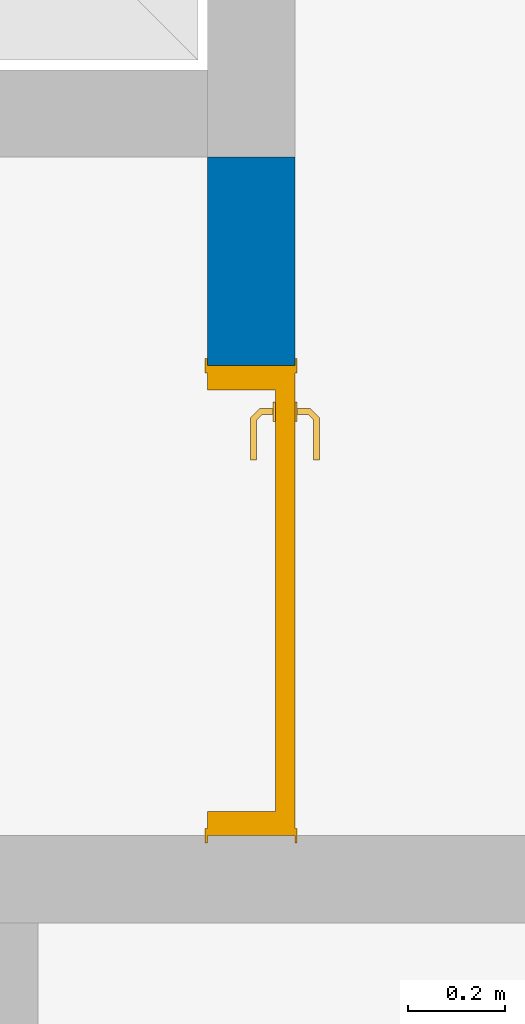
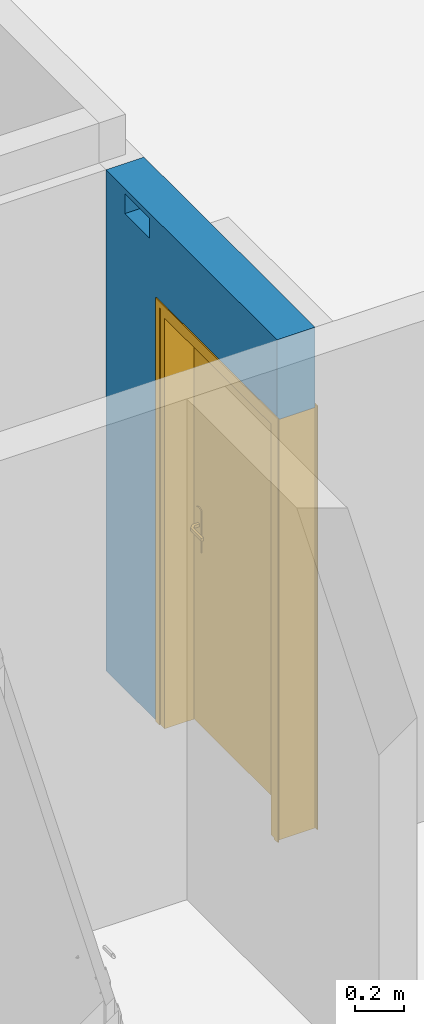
# One storey, part 17 of 30: 1 door, 1 wall, 2 openings.
"""IFC2X3 building model written with IfcOpenShell, lengths in centimetres."""

import ifcopenshell
import ifcopenshell.guid

model = None  # the IFC model being written
_history = None  # IfcOwnerHistory: only IFC2X3 demands one
_inside = {}  # id of a spatial element -> (the spatial element, [elements in it])
_under = {}  # id of a project, library or spatial element -> (it, [spatial elements below it])
_declared = {}  # id of a project -> (the project, [libraries it declares])
_typed = {}  # id of a type object -> (the type object, [elements of that type])
_made_of = {}  # id of a material, layer set ... -> (it, [elements and type objects made of it])


def new_model(schema):
    """Start an empty IFC model of exactly this schema.

    Asked for "IFC4X3", IfcOpenShell would pick the latest addendum, in which some entities
    have other attributes; the version numbers below select the first issue.
    IFC2X3 requires an IfcOwnerHistory on every rooted entity: one is made here for all.
    """
    global model, _history
    if schema == "IFC4X3":
        model = ifcopenshell.file(schema_version=(4, 3, 0, 0))
    else:
        model = ifcopenshell.file(schema=schema)
    _inside.clear()
    _under.clear()
    _declared.clear()
    _typed.clear()
    _made_of.clear()
    _history = None
    if model.schema == "IFC2X3":
        org = make("IfcOrganization", Name="unknown")
        user = make(
            "IfcPersonAndOrganization",
            ThePerson=make("IfcPerson", FamilyName="unknown"),
            TheOrganization=org,
        )
        app = make(
            "IfcApplication",
            ApplicationDeveloper=org,
            Version="unknown",
            ApplicationFullName="unknown",
            ApplicationIdentifier="unknown",
        )
        _history = make(
            "IfcOwnerHistory",
            OwningUser=user,
            OwningApplication=app,
            ChangeAction="ADDED",
            CreationDate=0,
        )
    return model


def make(cls, **values):
    """One entity of the class cls with the attributes given. An attribute that is None is left unset."""
    return model.create_entity(
        cls, **{name: value for name, value in values.items() if value is not None}
    )


def entity(cls, *values):
    """Any entity or typed value of the class cls, its attributes in the order of the schema. None: left unset."""
    e = model.create_entity(cls)
    for i, value in enumerate(values):
        if value is not None:
            e[i] = value
    return e


def rooted(cls, **values):
    """An entity with a GlobalId (a new one), such as an element, a storey or a relation."""
    return make(cls, GlobalId=ifcopenshell.guid.new(), OwnerHistory=_history, **values)


def si_unit(unit_type, name, prefix=None):
    """IfcSIUnit, for example si_unit("LENGTHUNIT", "METRE", prefix="MILLI")."""
    return make("IfcSIUnit", UnitType=unit_type, Prefix=prefix, Name=name)


def converted_unit(unit_type, name, factor, base, dimensions=None, offset=None):
    """IfcConversionBasedUnit, such as the inch: factor (a typed value) times the base unit."""
    return make(
        "IfcConversionBasedUnit"
        if offset is None
        else "IfcConversionBasedUnitWithOffset",
        ConversionOffset=offset,
        Dimensions=None
        if dimensions is None
        else entity("IfcDimensionalExponents", *dimensions),
        UnitType=unit_type,
        Name=name,
        ConversionFactor=make(
            "IfcMeasureWithUnit", ValueComponent=factor, UnitComponent=base
        ),
    )


def derived_unit(unit_type, elements):
    """IfcDerivedUnit: a product of units, each with its exponent."""
    return make(
        "IfcDerivedUnit",
        Elements=[
            make("IfcDerivedUnitElement", Unit=unit, Exponent=power)
            for unit, power in elements
        ],
        UnitType=unit_type,
    )


def assignment(units):
    """IfcUnitAssignment: the units of a project."""
    return None if units is None else make("IfcUnitAssignment", Units=units)


def point(xyz):
    """IfcCartesianPoint."""
    return None if xyz is None else make("IfcCartesianPoint", Coordinates=xyz)


def direction(xyz):
    """IfcDirection."""
    return None if xyz is None else make("IfcDirection", DirectionRatios=xyz)


def frame(location, z_axis=None, x_axis=None):
    """IfcAxis2Placement3D, a coordinate frame: its origin and axes. An axis left out is left unset."""
    return make(
        "IfcAxis2Placement3D",
        Location=point(location),
        Axis=direction(z_axis),
        RefDirection=direction(x_axis),
    )


def frame_2d(location, x_axis=None):
    """IfcAxis2Placement2D, a coordinate frame in the plane: its origin and x axis."""
    return make(
        "IfcAxis2Placement2D", Location=point(location), RefDirection=direction(x_axis)
    )


def origin():
    """The frame at (0, 0, 0) with its axes left unset."""
    return frame((0.0, 0.0, 0.0))


def place(relative_to, where):
    """IfcLocalPlacement: puts the frame where relative to a parent placement (None: the world)."""
    return make(
        "IfcLocalPlacement", PlacementRelTo=relative_to, RelativePlacement=where
    )


def context(
    kind, dimensions, precision=None, world=None, true_north=None, identifier=None
):
    """IfcGeometricRepresentationContext, for example the 3D "Model" context."""
    return make(
        "IfcGeometricRepresentationContext",
        ContextIdentifier=identifier,
        ContextType=kind,
        CoordinateSpaceDimension=dimensions,
        Precision=precision,
        WorldCoordinateSystem=world,
        TrueNorth=true_north,
    )


def subcontext(parent, identifier, kind, view, scale=None):
    """IfcGeometricRepresentationSubContext, for example "Body" below "Model"."""
    return make(
        "IfcGeometricRepresentationSubContext",
        ContextIdentifier=identifier,
        ContextType=kind,
        ParentContext=parent,
        TargetScale=scale,
        TargetView=view,
    )


def project(units=None, contexts=None):
    """IfcProject with its units and contexts."""
    return rooted(
        "IfcProject",
        Name="project",
        RepresentationContexts=contexts,
        UnitsInContext=assignment(units),
    )


def spatial(cls, under=None, at=None, **own):
    """A site, building, storey or space (cls), placed at a placement, below another one or the project."""
    s = rooted(cls, ObjectPlacement=at, **own)
    if under is not None:
        _under.setdefault(under.id(), (under, []))[1].append(s)
    return s


def profile(cls, at=None, kind="AREA", **sizes):
    """A parametric profile (cls). Its sizes go by their IFC names, for example OverallWidth=200.0."""
    return make(cls, ProfileType=kind, Position=at, **sizes)


def rectangle(**sizes):
    """IfcRectangleProfileDef."""
    return profile("IfcRectangleProfileDef", **sizes)


def extrude(swept, where, along, depth):
    """IfcExtrudedAreaSolid: the profile swept, set in the frame where, extruded along a direction by depth."""
    return make(
        "IfcExtrudedAreaSolid",
        SweptArea=swept,
        Position=where,
        ExtrudedDirection=direction(along),
        Depth=depth,
    )


def faces_of(points, faces, orient=None, outer=None):
    """IfcFace entities. A face is a list of loops; a loop is a list of indices into points, from 0.

    orient and outer hold one flag for each loop. By default every Orientation is true, the
    first loop of a face is its IfcFaceOuterBound and the others are IfcFaceBound.
    """
    made = []
    for i, loops in enumerate(faces):
        bounds = []
        for j, loop in enumerate(loops):
            is_outer = j == 0 if outer is None else outer[i][j]
            bounds.append(
                make(
                    "IfcFaceOuterBound" if is_outer else "IfcFaceBound",
                    Bound=make("IfcPolyLoop", Polygon=[points[k] for k in loop]),
                    Orientation=True if orient is None else orient[i][j],
                )
            )
        made.append(make("IfcFace", Bounds=bounds))
    return made


def faceted_brep(points, faces, orient=None, outer=None, voids=None):
    """IfcFacetedBrep: a solid bounded by flat faces; with voids (closed shells), ...WithVoids."""
    shared = [point(p) for p in points]
    hull = make("IfcClosedShell", CfsFaces=faces_of(shared, faces, orient, outer))
    if voids is None:
        return make("IfcFacetedBrep", Outer=hull)
    return make(
        "IfcFacetedBrepWithVoids",
        Outer=hull,
        Voids=[
            make(cls, CfsFaces=faces_of(shared, fs, o, b)) for cls, fs, o, b in voids
        ],
    )


def shape(context_of_items, identifier, shape_type, items):
    """IfcShapeRepresentation: the items that make up one representation, for example the "Body"."""
    return make(
        "IfcShapeRepresentation",
        ContextOfItems=context_of_items,
        RepresentationIdentifier=identifier,
        RepresentationType=shape_type,
        Items=items,
    )


def source(mapping_origin, context_of_items, identifier, shape_type, items):
    """IfcRepresentationMap: a shape defined once, which mapped items show again and again."""
    return make(
        "IfcRepresentationMap",
        MappingOrigin=mapping_origin,
        MappedRepresentation=shape(context_of_items, identifier, shape_type, items),
    )


def transform(
    local_origin,
    x_axis=None,
    y_axis=None,
    z_axis=None,
    scale=None,
    scale2=None,
    scale3=None,
    uniform=True,
):
    """IfcCartesianTransformationOperator3D, or its non-uniform kind. x_axis, y_axis, z_axis: its Axis1, 2, 3."""
    if uniform:
        return make(
            "IfcCartesianTransformationOperator3D",
            Axis1=direction(x_axis),
            Axis2=direction(y_axis),
            LocalOrigin=point(local_origin),
            Scale=scale,
            Axis3=direction(z_axis),
        )
    return make(
        "IfcCartesianTransformationOperator3DnonUniform",
        Axis1=direction(x_axis),
        Axis2=direction(y_axis),
        LocalOrigin=point(local_origin),
        Scale=scale,
        Axis3=direction(z_axis),
        Scale2=scale2,
        Scale3=scale3,
    )


def mapped(mapping_source, mapping_target):
    """IfcMappedItem: shows the shape of a source again, moved by a transform."""
    return make(
        "IfcMappedItem", MappingSource=mapping_source, MappingTarget=mapping_target
    )


def material(Name=None, Category=None):
    """IfcMaterial."""
    return make("IfcMaterial", Name=Name, Category=Category)


def material_list(materials):
    """IfcMaterialList."""
    return make("IfcMaterialList", Materials=materials)


def layer(
    of_material, thickness, ventilated=None, Name=None, Category=None, Priority=None
):
    """IfcMaterialLayer: one layer of a wall or slab, of a material (None: an air gap)."""
    return make(
        "IfcMaterialLayer",
        Material=of_material,
        LayerThickness=thickness,
        IsVentilated=ventilated,
        Name=Name,
        Category=Category,
        Priority=Priority,
    )


def layer_set(layers, Name=None):
    """IfcMaterialLayerSet."""
    return make("IfcMaterialLayerSet", MaterialLayers=layers, LayerSetName=Name)


def layer_usage(for_layer_set, set_direction, sense, offset, extent=None):
    """IfcMaterialLayerSetUsage: how a layer set lies in its element."""
    return make(
        "IfcMaterialLayerSetUsage",
        ForLayerSet=for_layer_set,
        LayerSetDirection=set_direction,
        DirectionSense=sense,
        OffsetFromReferenceLine=offset,
        ReferenceExtent=extent,
    )


def made_of(thing, what):
    """Note that an element or type object is made of a material, layer set ...; save() writes the relation."""
    if what is not None:
        _made_of.setdefault(what.id(), (what, []))[1].append(thing)
    return thing


def type_object(cls, material=None, **own):
    """A type object (cls), such as IfcWallType, which elements share."""
    return made_of(rooted(cls, **own), material)


def type_shapes(of_type, sources):
    """Give a type object the sources (RepresentationMaps) that its elements show as mapped items."""
    of_type.RepresentationMaps = sources


def element(
    cls,
    number,
    at=None,
    inside=None,
    cuts=None,
    type_object=None,
    material=None,
    context=None,
    identifier="Body",
    shape_type=None,
    held_by="IfcProductDefinitionShape",
    body=None,
    shapes=None,
    **own,
):
    """One element of the class cls, such as IfcWall. Its Tag is "e" and its number.

    at: its placement. inside: the storey or other place that contains it. cuts: it is an
    opening in that element (IfcRelVoidsElement). A single representation is given by context,
    identifier, shape_type and body (its items); several are given by shapes. held_by: the class
    of the entity that holds the representations. save() writes the other relations.
    """
    e = rooted(cls, Tag="e%d" % number, ObjectPlacement=at, **own)
    if body is not None:
        shapes = [shape(context, identifier, shape_type, body)]
    if shapes is not None:
        e.Representation = make(held_by, Representations=shapes)
    if inside is not None:
        _inside.setdefault(inside.id(), (inside, []))[1].append(e)
    if cuts is not None:
        rooted(
            "IfcRelVoidsElement", RelatingBuildingElement=cuts, RelatedOpeningElement=e
        )
    if type_object is not None:
        _typed.setdefault(type_object.id(), (type_object, []))[1].append(e)
    return made_of(e, material)


def fill(opening, filler):
    """IfcRelFillsElement: the door or window that sits in an opening."""
    return rooted(
        "IfcRelFillsElement",
        RelatingOpeningElement=opening,
        RelatedBuildingElement=filler,
    )


def aggregate(whole, parts):
    """IfcRelAggregates: a whole, such as a stair, and the parts it consists of."""
    return rooted("IfcRelAggregates", RelatingObject=whole, RelatedObjects=parts)


def save(model, path):
    """Write the relations noted so far, then the file.

    IfcRelAggregates (storeys below a building ...), IfcRelContainedInSpatialStructure (elements
    in a storey), IfcRelDefinesByType, IfcRelAssociatesMaterial and IfcRelDeclares: one each for
    every whole, place, type object, material and project.
    """
    for whole, parts in _under.values():
        aggregate(whole, parts)
    for where, things in _inside.values():
        rooted(
            "IfcRelContainedInSpatialStructure",
            RelatedElements=things,
            RelatingStructure=where,
        )
    for kind, things in _typed.values():
        rooted("IfcRelDefinesByType", RelatedObjects=things, RelatingType=kind)
    for what, things in _made_of.values():
        rooted("IfcRelAssociatesMaterial", RelatedObjects=things, RelatingMaterial=what)
    for by, libraries in _declared.values():
        rooted("IfcRelDeclares", RelatingContext=by, RelatedDefinitions=libraries)
    model.write(path)


model = new_model("IFC2X3")

# Units and contexts
model_context = context("Model", 3, precision=0.001, world=origin(), true_north=direction((6.12303176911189e-17, 1.0)))
body_context = subcontext(model_context, "Body", "Model", "MODEL_VIEW")
ifc_project = project(units=[si_unit("LENGTHUNIT", "METRE", prefix="CENTI"), si_unit("AREAUNIT", "SQUARE_METRE"), si_unit("VOLUMEUNIT", "CUBIC_METRE"), converted_unit("PLANEANGLEUNIT", "DEGREE", entity("IfcRatioMeasure", 0.0174532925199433), si_unit("PLANEANGLEUNIT", "RADIAN"), dimensions=[0, 0, 0, 0, 0, 0, 0]), si_unit("MASSUNIT", "GRAM", prefix="KILO"), derived_unit("MASSDENSITYUNIT", [(si_unit("MASSUNIT", "GRAM", prefix="KILO"), 1), (si_unit("LENGTHUNIT", "METRE"), -3)]), si_unit("TIMEUNIT", "SECOND"), si_unit("FREQUENCYUNIT", "HERTZ"), si_unit("THERMODYNAMICTEMPERATUREUNIT", "DEGREE_CELSIUS"), derived_unit("THERMALTRANSMITTANCEUNIT", [(si_unit("MASSUNIT", "GRAM", prefix="KILO"), 1), (si_unit("THERMODYNAMICTEMPERATUREUNIT", "KELVIN"), -1), (si_unit("TIMEUNIT", "SECOND"), -3)]), derived_unit("VOLUMETRICFLOWRATEUNIT", [(si_unit("LENGTHUNIT", "METRE"), 3), (si_unit("TIMEUNIT", "SECOND"), -1)]), si_unit("ELECTRICCURRENTUNIT", "AMPERE"), si_unit("ELECTRICVOLTAGEUNIT", "VOLT"), si_unit("POWERUNIT", "WATT"), si_unit("FORCEUNIT", "NEWTON"), si_unit("ILLUMINANCEUNIT", "LUX"), si_unit("LUMINOUSFLUXUNIT", "LUMEN"), si_unit("LUMINOUSINTENSITYUNIT", "CANDELA"), derived_unit("USERDEFINED", [(si_unit("MASSUNIT", "GRAM", prefix="KILO"), -1), (si_unit("LENGTHUNIT", "METRE"), -2), (si_unit("TIMEUNIT", "SECOND"), 3), (si_unit("LUMINOUSFLUXUNIT", "LUMEN"), 1)]), derived_unit("LINEARVELOCITYUNIT", [(si_unit("LENGTHUNIT", "METRE"), 1), (si_unit("TIMEUNIT", "SECOND"), -1)]), si_unit("PRESSUREUNIT", "PASCAL"), derived_unit("USERDEFINED", [(si_unit("LENGTHUNIT", "METRE"), -2), (si_unit("MASSUNIT", "GRAM", prefix="KILO"), 1), (si_unit("TIMEUNIT", "SECOND"), -2)])], contexts=[model_context])

# Site, building, storey
site_placement = place(None, origin())
site = spatial("IfcSite", under=ifc_project, at=site_placement, Name="Default", CompositionType="ELEMENT")
building_placement = place(site_placement, origin())
building = spatial("IfcBuilding", under=site, at=building_placement, Name="CAGE 03", CompositionType="ELEMENT")
storey_placement = place(building_placement, frame((0.0, 0.0, 610.0)))
storey = spatial("IfcBuildingStorey", under=building, at=storey_placement, Name="R+2", CompositionType="ELEMENT", Elevation=610.0)

# Wall, openings, door
ifc_material_1 = material(Name="Béton, C25/30")
ifc_layer = layer(ifc_material_1, 18.0)
ifc_layer_set = layer_set([ifc_layer], Name="Mur de base:Voile BA 18")
ifc_layer_usage = layer_usage(ifc_layer_set, "AXIS2", "POSITIVE", -9.0)
wall_type = type_object("IfcWallType", Name="Mur de base:Voile BA 18", PredefinedType="STANDARD", material=ifc_layer_set)
wall_placement = place(storey_placement, frame((10499.3658201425, 4632.66066607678, 0.0), z_axis=(0.0, 0.0, 1.0), x_axis=(0.0, -1.0, 0.0)))
wall = element("IfcWallStandardCase", 1, at=wall_placement, inside=storey, type_object=wall_type, material=ifc_layer_usage, Name="Mur de base:Voile BA 18", ObjectType="Mur de base:Voile BA 18", context=body_context, shape_type="SweptSolid", body=[
    extrude(rectangle(XDim=139.999999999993, YDim=17.9999999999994, at=frame_2d((69.9999999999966, 2.39808173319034e-13), x_axis=(-1.0, 0.0))), origin(), (0.0, 0.0, 1.0), 250.0),
])
opening_1_placement = place(wall_placement, origin())
element("IfcOpeningElement", 2, at=opening_1_placement, cuts=wall, Name="Mur de base:Voile BA 18", ObjectType="Opening", context=body_context, shape_type="SweptSolid", body=[
    extrude(rectangle(XDim=10.0, YDim=19.9999999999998, at=frame_2d((-4.33431068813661e-13, -5.41788836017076e-14), x_axis=(0.0, 1.0))), frame((25.4999999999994, -9.0, 242.5), z_axis=(0.0, 1.0, 0.0), x_axis=(1.0, 0.0, 0.0)), (0.0, 0.0, 1.0), 17.9999999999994),
])
opening_2_placement = place(wall_placement, frame((43.0, -9.0, 0.0)))
opening_2 = element("IfcOpeningElement", 3, at=opening_2_placement, cuts=wall, Name="Int. Simple:HB93:1", ObjectType="Opening", context=body_context, shape_type="SweptSolid", body=[
    extrude(rectangle(XDim=210.000000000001, YDim=96.9999999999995, at=frame_2d((105.000000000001, 48.4999999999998), x_axis=(1.0, 0.0))), frame((0.0, 0.0, 0.0), z_axis=(0.0, 1.0, 0.0), x_axis=(0.0, 0.0, 1.0)), (0.0, 0.0, 1.0), 18.0),
])
ifc_material_2 = material(Name="Finition Peinture - Blanc satiné")
ifc_material_3 = material(Name="Bois - Panneau de porte")
ifc_material_4 = material(Name="Bois - Cadre de porte")
ifc_material_list_1 = material_list([ifc_material_2, ifc_material_3, ifc_material_4])
ifc_material_list_2 = material_list([ifc_material_2, ifc_material_3, ifc_material_4])
door_style = type_object("IfcDoorStyle", Name="HB93", ConstructionType="NOTDEFINED", OperationType="SINGLE_SWING_RIGHT", ParameterTakesPrecedence=False, Sizeable=False, material=ifc_material_list_2)
shared_shape = source(origin(), body_context, "Body", "Brep", [
    faceted_brep([(96.5000000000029, -0.500000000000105, 87.0), (96.5000000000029, -0.500000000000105, 108.0), (95.535276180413, -0.500000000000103, 108.399601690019), (94.5000000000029, -0.500000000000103, 108.535898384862), (93.4647238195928, -0.500000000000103, 108.399601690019), (92.5000000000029, -0.500000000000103, 108.0), (92.5000000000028, -0.500000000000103, 87.0), (93.4647238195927, -0.500000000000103, 86.6003983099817), (94.5000000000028, -0.500000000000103, 86.464101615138), (95.5352761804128, -0.500000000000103, 86.6003983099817), (96.5000000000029, 0.0, 108.0), (96.5000000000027, 0.0, 87.0), (95.5352761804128, 0.0, 86.6003983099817), (94.5000000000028, 0.0, 86.464101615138), (93.4647238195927, 0.0, 86.6003983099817), (92.5000000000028, 0.0, 87.0), (92.5000000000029, 0.0, 108.0), (93.4647238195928, 0.0, 108.399601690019), (94.5000000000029, 0.0, 108.535898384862), (95.535276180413, 0.0, 108.399601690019)], [[[0, 1, 2, 3, 4, 5, 6, 7, 8, 9]], [[10, 11, 12, 13, 14, 15, 16, 17, 18, 19]], [[9, 12, 11, 0]], [[8, 13, 12, 9]], [[7, 14, 13, 8]], [[7, 6, 15, 14]], [[15, 6, 5, 16]], [[4, 17, 16, 5]], [[3, 18, 17, 4]], [[2, 19, 18, 3]], [[2, 1, 10, 19]], [[11, 10, 1, 0]]]),
    faceted_brep([(96.5000000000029, 4.0, 87.0), (96.5000000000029, 4.0, 108.0), (95.535276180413, 4.0, 108.399601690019), (94.5000000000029, 4.0, 108.535898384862), (93.4647238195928, 4.0, 108.399601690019), (92.500000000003, 4.0, 108.0), (92.5000000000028, 4.0, 87.0), (93.4647238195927, 4.0, 86.6003983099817), (94.5000000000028, 4.0, 86.464101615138), (95.5352761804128, 4.0, 86.6003983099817), (94.5000000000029, 4.49999999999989, 108.535898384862), (95.535276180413, 4.49999999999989, 108.399601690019), (96.5000000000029, 4.49999999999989, 108.0), (96.5000000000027, 4.49999999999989, 87.0), (95.5352761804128, 4.49999999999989, 86.6003983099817), (94.5000000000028, 4.49999999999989, 86.464101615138), (93.4647238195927, 4.49999999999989, 86.6003983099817), (92.5000000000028, 4.4999999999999, 87.0), (92.5000000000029, 4.4999999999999, 108.0), (93.4647238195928, 4.49999999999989, 108.399601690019)], [[[0, 1, 2, 3, 4, 5, 6, 7, 8, 9]], [[10, 11, 12, 13, 14, 15, 16, 17, 18, 19]], [[4, 19, 18, 5]], [[3, 10, 19, 4]], [[2, 11, 10, 3]], [[2, 1, 12, 11]], [[13, 12, 1, 0]], [[9, 14, 13, 0]], [[8, 15, 14, 9]], [[7, 16, 15, 8]], [[7, 6, 17, 16]], [[17, 6, 5, 18]]]),
    faceted_brep([(94.2974701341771, -0.500000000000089, 100.778044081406), (94.7025298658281, -0.500000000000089, 100.778044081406), (95.100000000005, -0.500000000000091, 100.699999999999), (95.100000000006, -0.500000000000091, 99.2999999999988), (94.7025298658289, -0.500000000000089, 99.221955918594), (94.297470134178, -0.500000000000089, 99.2219559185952), (93.9000000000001, -0.500000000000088, 99.3000000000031), (93.9000000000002, -0.500000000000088, 100.7), (94.7025298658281, -3.10045754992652, 100.778044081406), (95.1000000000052, -3.26509507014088, 100.7), (94.2974701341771, -2.93267631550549, 100.778044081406), (92.9298602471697, -4.30028620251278, 100.778044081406), (93.0976414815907, -4.70534593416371, 100.778044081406), (93.9000000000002, -2.76803879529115, 100.7), (93.9000000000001, -2.76803879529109, 99.3000000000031), (94.297470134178, -2.93267631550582, 99.2219559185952), (94.7025298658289, -3.10045754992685, 99.221955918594), (93.0976414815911, -4.70534593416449, 99.221955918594), (92.9298602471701, -4.30028620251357, 99.2219559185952), (95.100000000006, -3.26509507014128, 99.2999999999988), (93.2622790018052, -5.1028160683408, 100.7), (92.7652227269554, -3.90281606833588, 100.7), (92.7652227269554, -3.90281606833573, 99.3000000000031), (93.2622790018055, -5.10281606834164, 99.2999999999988), (84.4981359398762, -5.10281606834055, 100.7), (84.4981359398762, -4.70534593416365, 100.778044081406), (84.4981359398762, -4.30028620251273, 100.778044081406), (84.4981359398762, -3.90281606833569, 100.699999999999), (84.4981359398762, -3.90281606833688, 99.3000000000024), (84.4981359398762, -4.30028620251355, 99.2219559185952), (84.4981359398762, -4.70534593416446, 99.221955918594), (84.4981359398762, -5.10281606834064, 99.2999999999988), (88.7139980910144, -4.5028160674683, 100.78786867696), (89.2692302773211, -5.1028160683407, 100.7), (88.6316793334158, -3.90281606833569, 100.7), (88.631679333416, -3.90281606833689, 99.3000000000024), (88.7139981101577, -4.50281607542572, 99.2121313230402), (89.2692310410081, -5.10281606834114, 99.2999999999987)], [[[0, 1, 2, 3, 4, 5, 6, 7]], [[2, 1, 8, 9]], [[1, 0, 10, 11, 12, 8]], [[0, 7, 13, 10]], [[14, 13, 7, 6]], [[5, 15, 14, 6]], [[5, 4, 16, 17, 18, 15]], [[3, 19, 16, 4]], [[9, 19, 3, 2]], [[9, 8, 12, 20]], [[10, 13, 21, 11]], [[22, 21, 13, 14]], [[14, 15, 18, 22]], [[16, 19, 23, 17]], [[20, 23, 19, 9]], [[24, 25, 26, 27, 28, 29, 30, 31]], [[32, 25, 33]], [[33, 25, 24]], [[33, 20, 12]], [[11, 34, 32]], [[34, 11, 21]], [[27, 26, 34]], [[32, 26, 25]], [[32, 34, 26]], [[32, 33, 12]], [[11, 32, 12]], [[21, 22, 35, 28, 27, 34]], [[36, 29, 35]], [[30, 36, 37]], [[18, 35, 22]], [[29, 28, 35]], [[30, 37, 31]], [[37, 17, 23]], [[36, 17, 37]], [[36, 18, 17]], [[36, 35, 18]], [[29, 36, 30]], [[23, 20, 33, 24, 31, 37]]]),
    faceted_brep([(94.2974701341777, 4.49999999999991, 99.2219559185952), (94.7025298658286, 4.49999999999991, 99.221955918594), (95.1000000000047, 4.49999999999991, 99.2999999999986), (95.1000000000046, 4.49999999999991, 100.7), (94.7025298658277, 4.49999999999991, 100.778044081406), (94.2974701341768, 4.49999999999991, 100.778044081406), (93.8999999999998, 4.49999999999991, 100.7), (93.900000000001, 4.49999999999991, 99.3000000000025), (93.8999999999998, 6.7485204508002, 100.7), (93.8999999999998, 6.74852045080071, 99.3000000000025), (94.2974701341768, 6.91315797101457, 100.778044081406), (94.7025298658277, 7.0809392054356, 100.778044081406), (93.0838906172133, 8.69957845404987, 100.778044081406), (92.9161093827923, 8.29451872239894, 100.778044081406), (95.1000000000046, 7.24557672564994, 100.7), (95.1000000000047, 7.24557672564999, 99.2999999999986), (94.7025298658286, 7.08093920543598, 99.221955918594), (94.2974701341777, 6.91315797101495, 99.2219559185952), (92.9161093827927, 8.29451872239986, 99.2219559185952), (93.0838906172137, 8.69957845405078, 99.221955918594), (92.751471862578, 7.89704858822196, 100.7), (92.7514718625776, 7.89704858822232, 99.3000000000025), (93.2485281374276, 9.09704858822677, 100.7), (93.2485281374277, 9.09704858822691, 99.2999999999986), (84.4954216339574, 8.29451872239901, 100.778044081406), (84.4954216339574, 8.69957845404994, 100.778044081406), (84.4954216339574, 9.09704858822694, 100.7), (84.4954216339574, 9.09704858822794, 99.2999999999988), (84.4954216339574, 8.6995784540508, 99.221955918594), (84.4954216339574, 8.29451872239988, 99.2219559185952), (84.4954216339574, 7.89704858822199, 99.3000000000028), (84.4954216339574, 7.89704858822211, 100.7), (88.6234467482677, 7.89704858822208, 100.7), (88.6234479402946, 7.89704858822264, 99.3000000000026), (88.7057655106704, 8.49704858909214, 100.78786867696), (89.255479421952, 9.09704858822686, 100.7), (89.2554795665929, 9.09704858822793, 99.2999999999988), (88.7057654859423, 8.49704858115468, 99.2121313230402)], [[[0, 1, 2, 3, 4, 5, 6, 7]], [[8, 9, 7, 6]], [[5, 10, 8, 6]], [[5, 4, 11, 12, 13, 10]], [[3, 14, 11, 4]], [[14, 3, 2, 15]], [[2, 1, 16, 15]], [[1, 0, 17, 18, 19, 16]], [[0, 7, 9, 17]], [[20, 21, 9, 8]], [[8, 10, 13, 20]], [[14, 22, 12, 11]], [[23, 22, 14, 15]], [[15, 16, 19, 23]], [[17, 9, 21, 18]], [[24, 25, 26, 27, 28, 29, 30, 31]], [[21, 20, 32, 31, 30, 33]], [[34, 24, 32]], [[25, 34, 35]], [[13, 32, 20]], [[24, 31, 32]], [[25, 35, 26]], [[35, 12, 22]], [[34, 12, 35]], [[34, 13, 12]], [[34, 32, 13]], [[24, 34, 25]], [[22, 23, 36, 27, 26, 35]], [[37, 28, 36]], [[36, 28, 27]], [[36, 23, 19]], [[18, 33, 37]], [[33, 18, 21]], [[30, 29, 33]], [[37, 29, 28]], [[37, 33, 29]], [[37, 36, 19]], [[18, 37, 19]]]),
    faceted_brep([(100.500000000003, 4.0, 206.5), (100.500000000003, 4.0, 0.0), (10.5000000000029, 4.0, 0.0), (10.5000000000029, 4.0, 206.5), (100.500000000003, 0.0, 206.5), (10.5000000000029, 0.0, 206.5), (10.5000000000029, 0.0, 0.0), (100.500000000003, 0.0, 0.0)], [[[0, 1, 2, 3]], [[4, 5, 6, 7]], [[3, 5, 4, 0]], [[2, 6, 5, 3]], [[1, 7, 6, 2]], [[0, 4, 7, 1]]]),
    faceted_brep([(104.0, 0.0, 0.0), (100.500000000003, 0.0, 0.0), (100.500000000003, 4.0, 0.0), (99.0, 4.0, 0.0), (99.0, 18.0, 0.0), (104.0, 18.0, 0.0), (104.0, 18.0, 210.0), (104.0, 0.0, 210.0), (99.0, 18.0, 205.0), (12.0, 18.0, 205.0), (12.0, 18.0, 0.0), (7.0, 18.0, 0.0), (7.0, 18.0, 210.0), (99.0, 4.0, 205.0), (100.500000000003, 4.0, 206.5), (10.5000000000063, 4.0, 206.5), (10.5000000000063, 4.0, 0.0), (12.0, 4.0, 0.0), (12.0, 4.0, 205.0), (100.500000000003, 0.0, 206.5), (7.0, 0.0, 210.0), (7.0, 0.0, 0.0), (10.5000000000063, 0.0, 0.0), (10.5000000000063, 0.0, 206.5)], [[[0, 1, 2, 3, 4, 5]], [[5, 6, 7, 0]], [[4, 8, 9, 10, 11, 12, 6, 5]], [[3, 13, 8, 4]], [[2, 14, 15, 16, 17, 18, 13, 3]], [[1, 19, 14, 2]], [[0, 7, 20, 21, 22, 23, 19, 1]], [[12, 11, 21, 20]], [[21, 11, 10, 17, 16, 22]], [[18, 17, 10, 9]], [[23, 22, 16, 15]], [[6, 12, 20, 7]], [[13, 18, 9, 8]], [[19, 23, 15, 14]]]),
    faceted_brep([(102.500000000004, 18.0, 0.0), (102.500000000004, 18.5000000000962, 0.0), (105.500000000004, 18.5000000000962, 0.0), (105.500000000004, 18.0, 0.0), (105.500000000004, 18.0, 211.500000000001), (5.50000000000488, 18.0, 211.500000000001), (5.50000000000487, 18.0, 0.0), (8.50000000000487, 18.0, 0.0), (8.50000000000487, 18.0, 208.500000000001), (102.500000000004, 18.0, 208.500000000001), (105.500000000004, 18.5000000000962, 211.500000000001), (102.500000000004, 18.5000000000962, 208.500000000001), (8.50000000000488, 18.5000000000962, 208.500000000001), (8.50000000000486, 18.5000000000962, 0.0), (5.50000000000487, 18.5000000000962, 0.0), (5.50000000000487, 18.5000000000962, 211.500000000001)], [[[0, 1, 2, 3]], [[3, 4, 5, 6, 7, 8, 9, 0]], [[2, 10, 4, 3]], [[1, 11, 12, 13, 14, 15, 10, 2]], [[0, 9, 11, 1]], [[7, 6, 14, 13]], [[8, 7, 13, 12]], [[15, 14, 6, 5]], [[10, 15, 5, 4]], [[9, 8, 12, 11]]]),
    faceted_brep([(105.500000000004, -0.5, 0.0), (105.500000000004, -0.5, 211.500000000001), (5.50000000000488, -0.5, 211.500000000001), (5.50000000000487, -0.5, 0.0), (8.50000000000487, -0.5, 0.0), (8.50000000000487, -0.5, 208.500000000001), (102.500000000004, -0.5, 208.500000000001), (102.500000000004, -0.5, 0.0), (105.500000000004, 0.0, 0.0), (105.500000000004, 0.0, 211.500000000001), (102.500000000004, 0.0, 0.0), (102.500000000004, 0.0, 208.500000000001), (8.50000000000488, 0.0, 208.500000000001), (8.50000000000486, 0.0, 0.0), (5.50000000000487, 0.0, 0.0), (5.50000000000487, 0.0, 211.500000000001)], [[[0, 1, 2, 3, 4, 5, 6, 7]], [[8, 9, 1, 0]], [[10, 11, 12, 13, 14, 15, 9, 8]], [[7, 6, 11, 10]], [[5, 4, 13, 12]], [[15, 14, 3, 2]], [[9, 15, 2, 1]], [[6, 5, 12, 11]], [[4, 3, 14, 13]], [[7, 10, 8, 0]]]),
])
type_shapes(door_style, [shared_shape])
door_placement = place(opening_2_placement, frame((104.0, 18.0, 0.0), z_axis=(0.0, 0.0, 1.0), x_axis=(-1.0, 0.0, 0.0)))
door = element("IfcDoor", 4, at=door_placement, inside=storey, type_object=door_style, material=ifc_material_list_1, Name="Int. Simple:HB93", ObjectType="HB93", OverallHeight=210.000000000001, OverallWidth=96.9999999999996, context=body_context, shape_type="MappedRepresentation", body=[
    mapped(shared_shape, transform((0.0, 0.0, 0.0), scale=1.0)),
])
fill(opening_2, door)

save(model, "model.ifc")
